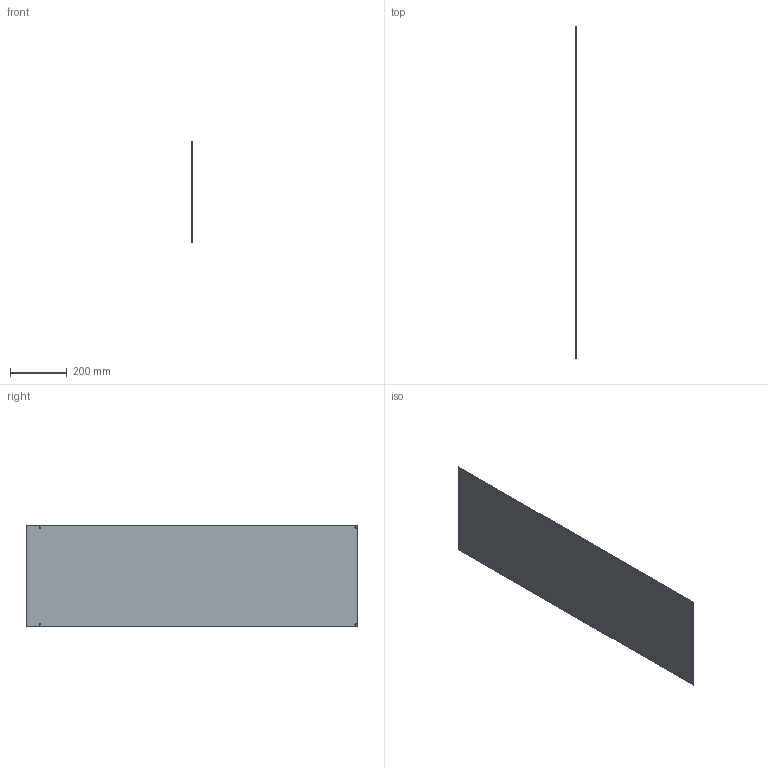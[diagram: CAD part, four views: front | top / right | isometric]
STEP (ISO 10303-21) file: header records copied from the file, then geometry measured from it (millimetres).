
FILE_DESCRIPTION(/* description */ (''),/* implementation_level */ '2;1');
FILE_NAME(/* name */ '14.frame-panels#14.3#HFPAL-3-1166-356',/* time_stamp */ '2014-12-01T20:20:09+01:00',/* author */ (''),/* organization */ (''),/* preprocessor_version */ 'ST-DEVELOPER v14',/* originating_system */ '',/* authorisation */ '');
FILE_SCHEMA (('AUTOMOTIVE_DESIGN'));
Length unit declared in the file: millimetre
Products named in the file (1): Document
Bounding box: 1 x 1166 x 356 mm (x, y, z)
Volume: 415017.2 mm3; surface area: 833141.3 mm2
Topology: 1 solids, 1 shells, 14 faces, 36 edges, 24 vertices
Faces by surface type: bspline 8, plane 6
Entity records: 978 total; most frequent: CARTESIAN_POINT 488, ORIENTED_EDGE 72, PCURVE 72, DEFINITIONAL_REPRESENTATION 72, B_SPLINE_CURVE_WITH_KNOTS 68, SURFACE_CURVE 36, EDGE_CURVE 36, VERTEX_POINT 24
